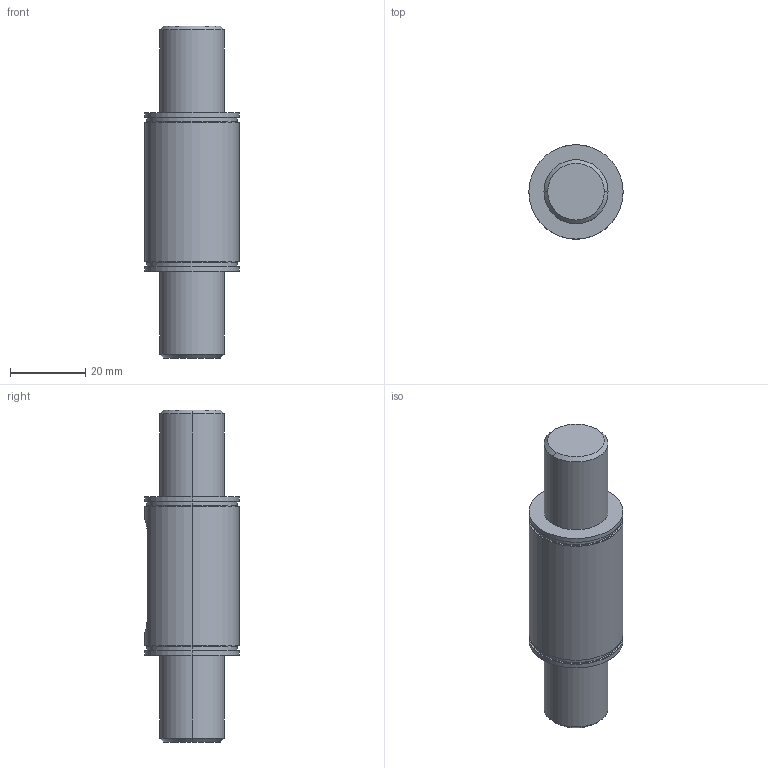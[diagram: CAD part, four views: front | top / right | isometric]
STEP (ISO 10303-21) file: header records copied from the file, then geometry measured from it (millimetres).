
FILE_DESCRIPTION (( 'STEP AP203' ), '1' );
FILE_NAME ('084.812.017.STEP', '2015-02-11T08:22:56', ( '' ), ( '' ), 'SwSTEP 2.0', 'SolidWorks 2012', '' );
FILE_SCHEMA (( 'CONFIG_CONTROL_DESIGN' ));
Length unit declared in the file: millimetre
Products named in the file (1): 084.812.017
Bounding box: 25 x 25 x 88 mm (x, y, z)
Volume: 30039 mm3; surface area: 7050.8 mm2
Topology: 1 solids, 1 shells, 40 faces, 81 edges, 50 vertices
Faces by surface type: cylinder 17, plane 11, torus 8, cone 4
Entity records: 1198 total; most frequent: CARTESIAN_POINT 239, DIRECTION 211, ORIENTED_EDGE 162, AXIS2_PLACEMENT_3D 92, EDGE_CURVE 81, CIRCLE 51, VERTEX_POINT 50, EDGE_LOOP 47
